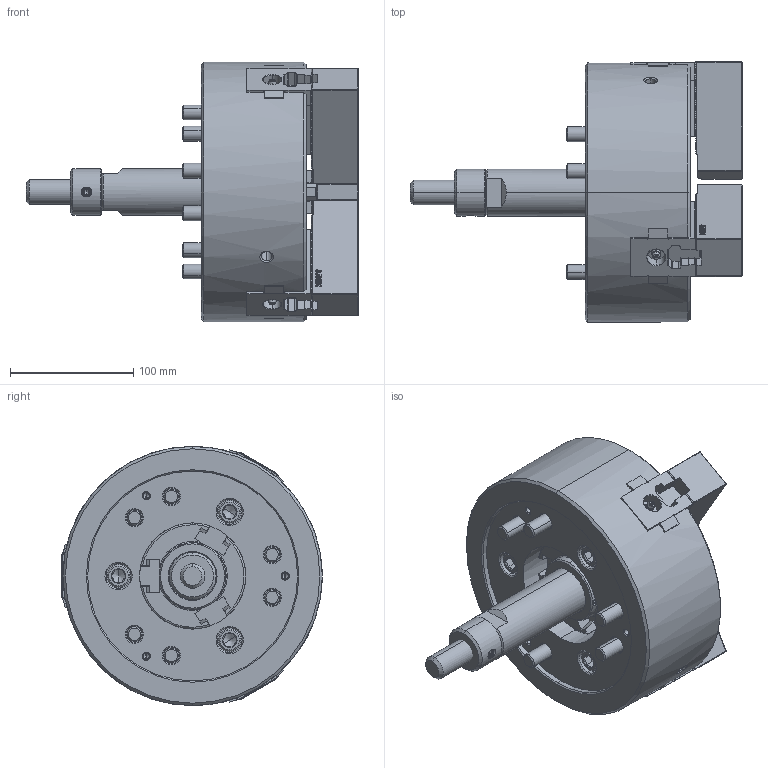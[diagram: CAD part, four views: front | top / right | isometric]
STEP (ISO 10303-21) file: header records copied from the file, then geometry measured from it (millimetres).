
FILE_DESCRIPTION (( 'STEP AP214' ), '1' );
FILE_NAME ('DT1_N-08_OUTSIDE_VIEW_HUL.STEP', '2026-03-13T04:44:30', ( '' ), ( '' ), 'SwSTEP 2.0', 'SolidWorks 2022', '' );
FILE_SCHEMA (( 'AUTOMOTIVE_DESIGN' ));
Length unit declared in the file: millimetre
Products named in the file (11): DT1_N-08_M5x12^DT1_N-08; DT1_N-08_M12x85^DT1_N-08; DT1_N-08_COVER^DT1_N-08; DT1_N-08_TNUT^DT1_N-08; DT1_N-08_OUTSIDE_VIEW_HUL; Copy of 61P310518^DT1_N-08; DT1_N-08_M12x35^DT1_N-08; DT1_N-08_DN^DT1_N-08; DT1_N-08_DRAWSCREW^DT1_N-08; DT1_N-08_BASE^DT1_N-08; DT1_N-08_SOFTJAW^DT1_N-08
Assembly tree (26 placements, depth 2):
  DT1_N-08_OUTSIDE_VIEW_HUL
    DT1_N-08_SOFTJAW^DT1_N-08  x3
    DT1_N-08_TNUT^DT1_N-08  x3
    DT1_N-08_COVER^DT1_N-08
    DT1_N-08_DRAWSCREW^DT1_N-08
    Copy of 61P310518^DT1_N-08
    DT1_N-08_DN^DT1_N-08
    DT1_N-08_BASE^DT1_N-08
    DT1_N-08_M5x12^DT1_N-08  x3
    DT1_N-08_M12x35^DT1_N-08  x6
    DT1_N-08_M12x85^DT1_N-08  x6
Bounding box: 268.88 x 211.01 x 210 mm (x, y, z)
Volume: 3126542.5 mm3; surface area: 390064.3 mm2
Topology: 26 solids, 26 shells, 4687 faces, 13158 edges, 8612 vertices
Faces by surface type: plane 2720, cylinder 1126, bspline 427, cone 350, torus 58, sphere 6
Entity records: 106958 total; most frequent: CARTESIAN_POINT 33559, ORIENTED_EDGE 16708, DIRECTION 12918, EDGE_CURVE 8354, VECTOR 5874, LINE 5874, VERTEX_POINT 5472, AXIS2_PLACEMENT_3D 3522
